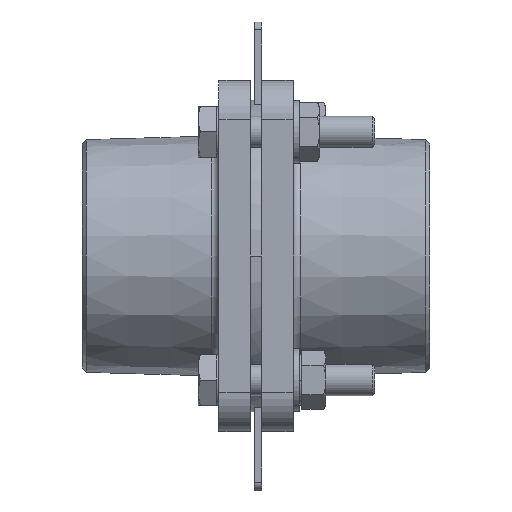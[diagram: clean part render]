
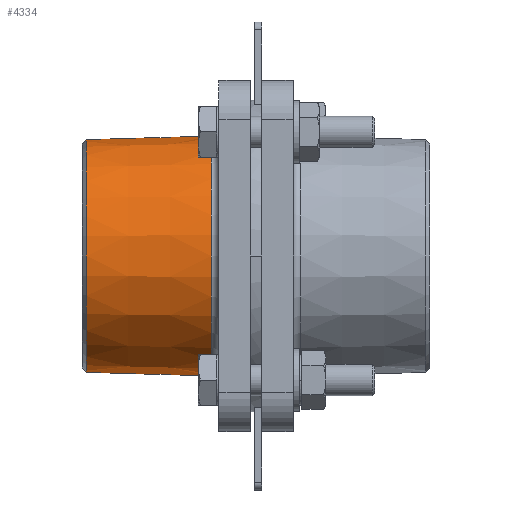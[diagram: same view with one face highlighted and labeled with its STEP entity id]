
A CAD part, left-side view. The second image highlights one B-rep face of the part: STEP entity #4334.
In plain terms, the highlighted conical face has half-angle 1.637 degrees and reference radius 30.744 mm.
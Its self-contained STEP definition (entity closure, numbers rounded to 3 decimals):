
#65 = AXIS2_PLACEMENT_3D ( 'NONE', #4342, #7960, #4376 ) ;
#532 = LINE ( 'NONE', #1485, #4473 ) ;
#581 = VERTEX_POINT ( 'NONE', #4955 ) ;
#584 = VERTEX_POINT ( 'NONE', #7122 ) ;
#734 = DIRECTION ( 'NONE',  ( 0., -1., 0.029 ) ) ;
#889 = DIRECTION ( 'NONE',  ( 0., -1., -0.029 ) ) ;
#1485 = CARTESIAN_POINT ( 'NONE',  ( 1.279, 3.997, 34.109 ) ) ;
#1529 = LINE ( 'NONE', #4575, #7160 ) ;
#1895 = EDGE_CURVE ( 'NONE', #581, #584, #1529, .T. ) ;
#1992 = DIRECTION ( 'NONE',  ( 0., -1., 0. ) ) ;
#2136 = CARTESIAN_POINT ( 'NONE',  ( 1.279, 3.997, 3.364 ) ) ;
#2327 = VERTEX_POINT ( 'NONE', #3783 ) ;
#2749 = CARTESIAN_POINT ( 'NONE',  ( 1.279, 36.025, 33.194 ) ) ;
#2851 = DIRECTION ( 'NONE',  ( 0., 0., -1. ) ) ;
#3783 = CARTESIAN_POINT ( 'NONE',  ( 1.279, 3.997, 34.109 ) ) ;
#4334 = ADVANCED_FACE ( 'NONE', ( #5432 ), #5998, .T. ) ;
#4342 = CARTESIAN_POINT ( 'NONE',  ( 1.279, 3.997, 3.364 ) ) ;
#4376 = DIRECTION ( 'NONE',  ( 0., 0., -1. ) ) ;
#4473 = VECTOR ( 'NONE', #734, 1000. ) ;
#4575 = CARTESIAN_POINT ( 'NONE',  ( 1.279, 3.997, -27.38 ) ) ;
#4808 = AXIS2_PLACEMENT_3D ( 'NONE', #2136, #7269, #2851 ) ;
#4955 = CARTESIAN_POINT ( 'NONE',  ( 1.279, 36.025, -26.465 ) ) ;
#5111 = EDGE_LOOP ( 'NONE', ( #6158, #8152, #8780, #5253 ) ) ;
#5253 = ORIENTED_EDGE ( 'NONE', *, *, #6005, .F. ) ;
#5376 = AXIS2_PLACEMENT_3D ( 'NONE', #6408, #1992, #7120 ) ;
#5432 = FACE_OUTER_BOUND ( 'NONE', #5111, .T. ) ;
#5998 = CONICAL_SURFACE ( 'NONE', #65, 30.744, 0.029 ) ;
#6005 = EDGE_CURVE ( 'NONE', #2327, #584, #6884, .T. ) ;
#6087 = EDGE_CURVE ( 'NONE', #6752, #2327, #532, .T. ) ;
#6158 = ORIENTED_EDGE ( 'NONE', *, *, #6087, .F. ) ;
#6408 = CARTESIAN_POINT ( 'NONE',  ( 1.279, 36.025, 3.364 ) ) ;
#6752 = VERTEX_POINT ( 'NONE', #2749 ) ;
#6859 = CIRCLE ( 'NONE', #5376, 29.829 ) ;
#6884 = CIRCLE ( 'NONE', #4808, 30.744 ) ;
#6978 = EDGE_CURVE ( 'NONE', #6752, #581, #6859, .T. ) ;
#7120 = DIRECTION ( 'NONE',  ( 0., 0., 1. ) ) ;
#7122 = CARTESIAN_POINT ( 'NONE',  ( 1.279, 3.997, -27.38 ) ) ;
#7160 = VECTOR ( 'NONE', #889, 1000. ) ;
#7269 = DIRECTION ( 'NONE',  ( 0., -1., 0. ) ) ;
#7960 = DIRECTION ( 'NONE',  ( 0., -1., 0. ) ) ;
#8152 = ORIENTED_EDGE ( 'NONE', *, *, #6978, .T. ) ;
#8780 = ORIENTED_EDGE ( 'NONE', *, *, #1895, .T. ) ;
